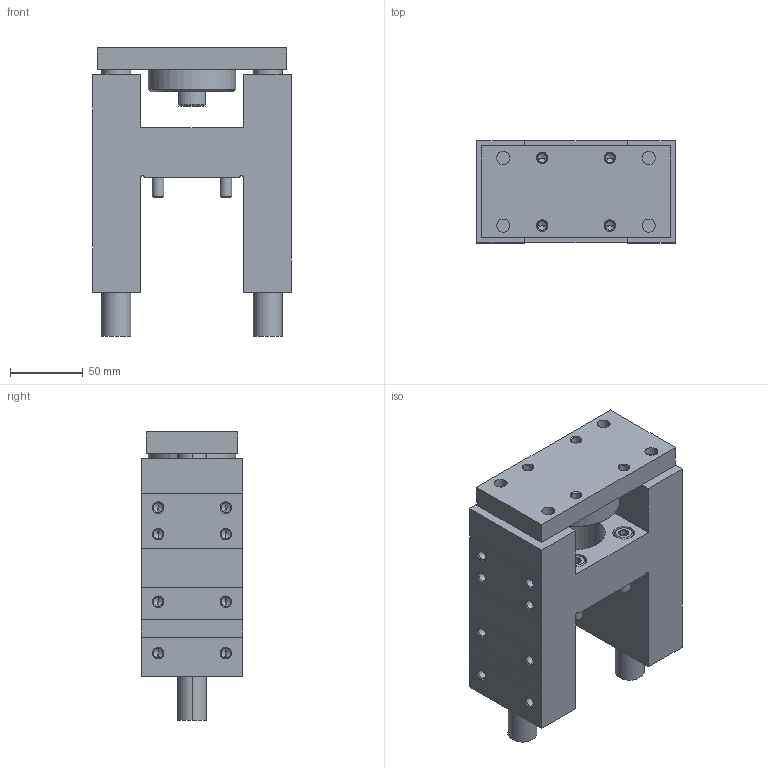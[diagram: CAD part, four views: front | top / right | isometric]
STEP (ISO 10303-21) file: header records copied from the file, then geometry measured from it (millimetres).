
FILE_DESCRIPTION (( 'STEP AP203' ), '1' );
FILE_NAME ('GB50-10.STEP', '2020-04-24T11:24:10', ( '' ), ( '' ), 'SwSTEP 2.0', 'SolidWorks 2019', '' );
FILE_SCHEMA (( 'CONFIG_CONTROL_DESIGN' ));
Length unit declared in the file: millimetre
Products named in the file (1): GB50-10
Bounding box: 137 x 70 x 198 mm (x, y, z)
Volume: 983242.5 mm3; surface area: 169741.1 mm2
Topology: 6 solids, 6 shells, 377 faces, 852 edges, 480 vertices
Faces by surface type: cone 154, plane 117, cylinder 106
Entity records: 10863 total; most frequent: CARTESIAN_POINT 2350, DIRECTION 1902, ORIENTED_EDGE 1624, EDGE_CURVE 812, AXIS2_PLACEMENT_3D 744, VERTEX_POINT 480, EDGE_LOOP 440, VECTOR 414
